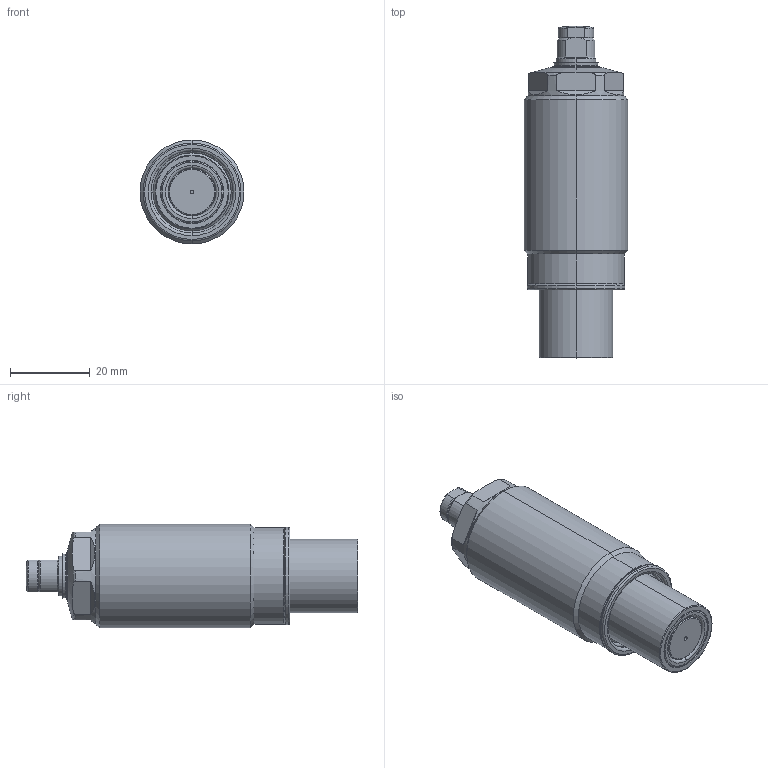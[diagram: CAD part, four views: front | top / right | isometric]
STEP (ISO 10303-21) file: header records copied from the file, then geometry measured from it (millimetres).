
FILE_DESCRIPTION(/* description */ (''),/* implementation_level */ '2;1');
FILE_NAME(/* name */ 'TSC26-Q.stp',/* time_stamp */ '2026-02-04T13:49:00+08:00',/* author */ (''),/* organization */ (''),/* preprocessor_version */ 'ST-DEVELOPER v16.7',/* originating_system */ 'SIEMENS PLM Software NX 12.0',/* authorisation */ '');
FILE_SCHEMA (('AUTOMOTIVE_DESIGN { 1 0 10303 214 3 1 1 1 }'));
Length unit declared in the file: millimetre
Products named in the file (7): XLD-M6_Oring; XLD-M6_contactbolt; AS568-020(90); TSC26-Q-02; TSC26-Q-01; TSC26-Q-03; LD0263-Q_step
Assembly tree (6 placements, depth 3):
  LD0263-Q_step
    TSC26-Q-01
    TSC26-Q-02
    AS568-020(90)
    TSC26-Q-03
      XLD-M6_contactbolt
      XLD-M6_Oring
Bounding box: 26 x 83 x 26 mm (x, y, z)
Volume: 32777.1 mm3; surface area: 9042.8 mm2
Topology: 5 solids, 5 shells, 177 faces, 384 edges, 227 vertices
Faces by surface type: torus 64, cylinder 44, plane 37, cone 30, sphere 2
Entity records: 5338 total; most frequent: CARTESIAN_POINT 1215, DIRECTION 948, ORIENTED_EDGE 768, AXIS2_PLACEMENT_3D 424, EDGE_CURVE 384, CIRCLE 240, VERTEX_POINT 227, EDGE_LOOP 191
